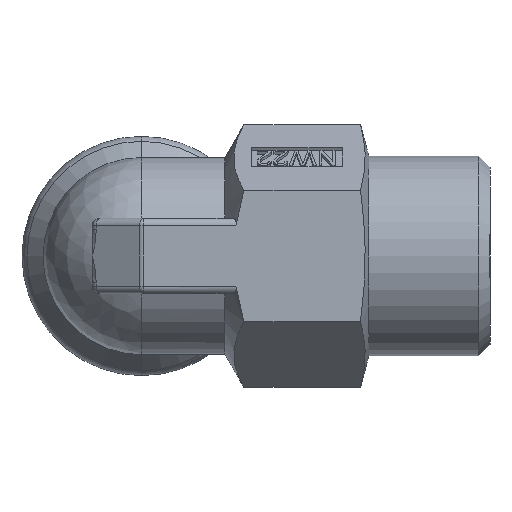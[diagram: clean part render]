
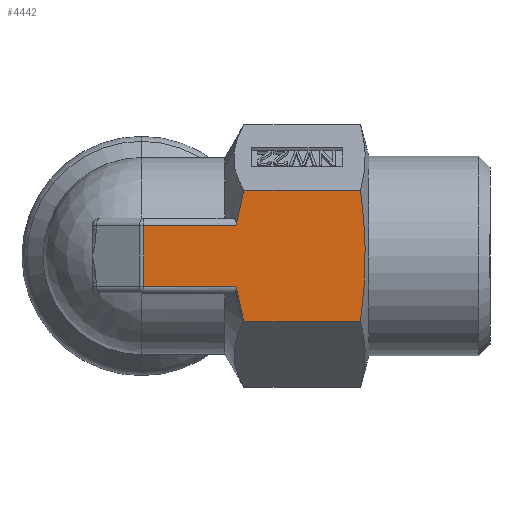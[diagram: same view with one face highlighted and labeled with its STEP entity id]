
A CAD part, left-side view. The second image highlights one B-rep face of the part: STEP entity #4442.
In plain terms, the highlighted planar face has unit normal (-1, 0, 0).
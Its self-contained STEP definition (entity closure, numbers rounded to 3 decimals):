
#67 = DIRECTION ( 'NONE',  ( 0., -1., 0. ) ) ;
#101 = CARTESIAN_POINT ( 'NONE',  ( -15., -30., 8.66 ) ) ;
#211 = CARTESIAN_POINT ( 'NONE',  ( -15., -12.457, 4. ) ) ;
#257 = DIRECTION ( 'NONE',  ( 0., 0., -1. ) ) ;
#367 = EDGE_CURVE ( 'NONE', #2882, #2411, #4184, .T. ) ;
#432 = EDGE_CURVE ( 'NONE', #649, #3298, #1314, .T. ) ;
#492 = EDGE_LOOP ( 'NONE', ( #1370, #4715, #2795, #4676, #1510, #5433, #3528, #2963 ) ) ;
#536 = CARTESIAN_POINT ( 'NONE',  ( -15., -28.896, 8.66 ) ) ;
#547 = CARTESIAN_POINT ( 'NONE',  ( -15., -13.494, 8.66 ) ) ;
#568 = VERTEX_POINT ( 'NONE', #2174 ) ;
#649 = VERTEX_POINT ( 'NONE', #536 ) ;
#734 = B_SPLINE_CURVE_WITH_KNOTS ( 'NONE', 3,
 ( #4618, #1469, #1910, #547 ),
 .UNSPECIFIED., .F., .F.,
 ( 4, 4 ),
 ( 0.028, 0.033 ),
 .UNSPECIFIED. ) ;
#746 = VECTOR ( 'NONE', #5004, 1000. ) ;
#833 = VECTOR ( 'NONE', #4241, 1000. ) ;
#888 = VERTEX_POINT ( 'NONE', #211 ) ;
#933 = DIRECTION ( 'NONE',  ( 0., 0., -1. ) ) ;
#968 = B_SPLINE_CURVE_WITH_KNOTS ( 'NONE', 3,
 ( #2240, #4973, #1342, #2259, #5830, #1329 ),
 .UNSPECIFIED., .F., .F.,
 ( 4, 2, 4 ),
 ( 0.016, 0.018, 0.02 ),
 .UNSPECIFIED. ) ;
#1096 = AXIS2_PLACEMENT_3D ( 'NONE', #101, #4558, #933 ) ;
#1221 = VERTEX_POINT ( 'NONE', #1847 ) ;
#1247 = CARTESIAN_POINT ( 'NONE',  ( -15., -29.517, 1.458 ) ) ;
#1314 = LINE ( 'NONE', #4160, #746 ) ;
#1329 = CARTESIAN_POINT ( 'NONE',  ( -15., -12.457, -4. ) ) ;
#1342 = CARTESIAN_POINT ( 'NONE',  ( -15., -13.073, -7.124 ) ) ;
#1370 = ORIENTED_EDGE ( 'NONE', *, *, #4401, .F. ) ;
#1469 = CARTESIAN_POINT ( 'NONE',  ( -15., -12.693, 5.583 ) ) ;
#1510 = ORIENTED_EDGE ( 'NONE', *, *, #1686, .F. ) ;
#1559 = EDGE_CURVE ( 'NONE', #888, #568, #4697, .T. ) ;
#1680 = CARTESIAN_POINT ( 'NONE',  ( -15., -28.896, -8.66 ) ) ;
#1686 = EDGE_CURVE ( 'NONE', #2411, #1221, #968, .T. ) ;
#1847 = CARTESIAN_POINT ( 'NONE',  ( -15., -12.457, -4. ) ) ;
#1910 = CARTESIAN_POINT ( 'NONE',  ( -15., -13.053, 7.132 ) ) ;
#1977 = CARTESIAN_POINT ( 'NONE',  ( -15., -13.494, 8.66 ) ) ;
#1996 = EDGE_CURVE ( 'NONE', #649, #2882, #5348, .T. ) ;
#2034 = CARTESIAN_POINT ( 'NONE',  ( -15., -29.089, 7.222 ) ) ;
#2052 = CARTESIAN_POINT ( 'NONE',  ( -15., -30., -8.66 ) ) ;
#2166 = CARTESIAN_POINT ( 'NONE',  ( -15., -29.089, -7.219 ) ) ;
#2174 = CARTESIAN_POINT ( 'NONE',  ( -15., -0.249, 4. ) ) ;
#2240 = CARTESIAN_POINT ( 'NONE',  ( -15., -13.494, -8.66 ) ) ;
#2259 = CARTESIAN_POINT ( 'NONE',  ( -15., -12.722, -5.565 ) ) ;
#2411 = VERTEX_POINT ( 'NONE', #3445 ) ;
#2595 = CARTESIAN_POINT ( 'NONE',  ( -15., -29.247, -5.768 ) ) ;
#2795 = ORIENTED_EDGE ( 'NONE', *, *, #5055, .T. ) ;
#2805 = CARTESIAN_POINT ( 'NONE',  ( -15., -28.896, -8.66 ) ) ;
#2841 = CARTESIAN_POINT ( 'NONE',  ( -15., -0.249, -5. ) ) ;
#2882 = VERTEX_POINT ( 'NONE', #2805 ) ;
#2905 = VECTOR ( 'NONE', #257, 1000. ) ;
#2963 = ORIENTED_EDGE ( 'NONE', *, *, #432, .T. ) ;
#3040 = VERTEX_POINT ( 'NONE', #4314 ) ;
#3298 = VERTEX_POINT ( 'NONE', #1977 ) ;
#3445 = CARTESIAN_POINT ( 'NONE',  ( -15., -13.494, -8.66 ) ) ;
#3518 = CARTESIAN_POINT ( 'NONE',  ( -15., -29.245, 5.782 ) ) ;
#3528 = ORIENTED_EDGE ( 'NONE', *, *, #1996, .F. ) ;
#3538 = CARTESIAN_POINT ( 'NONE',  ( -15., -29.518, -1.43 ) ) ;
#3619 = EDGE_CURVE ( 'NONE', #3040, #1221, #4909, .T. ) ;
#4051 = VECTOR ( 'NONE', #4335, 1000. ) ;
#4160 = CARTESIAN_POINT ( 'NONE',  ( -15., -30., 8.66 ) ) ;
#4184 = LINE ( 'NONE', #2052, #4051 ) ;
#4204 = CARTESIAN_POINT ( 'NONE',  ( -15., 0.019, 4. ) ) ;
#4241 = DIRECTION ( 'NONE',  ( 0., 1., 0. ) ) ;
#4257 = LINE ( 'NONE', #2841, #2905 ) ;
#4314 = CARTESIAN_POINT ( 'NONE',  ( -15., -0.249, -4. ) ) ;
#4335 = DIRECTION ( 'NONE',  ( 0., 1., 0. ) ) ;
#4401 = EDGE_CURVE ( 'NONE', #888, #3298, #734, .T. ) ;
#4426 = CARTESIAN_POINT ( 'NONE',  ( -15., -30., -4. ) ) ;
#4442 = ADVANCED_FACE ( 'NONE', ( #4546 ), #5434, .F. ) ;
#4546 = FACE_OUTER_BOUND ( 'NONE', #492, .T. ) ;
#4558 = DIRECTION ( 'NONE',  ( 1., 0., 0. ) ) ;
#4618 = CARTESIAN_POINT ( 'NONE',  ( -15., -12.457, 4. ) ) ;
#4676 = ORIENTED_EDGE ( 'NONE', *, *, #3619, .T. ) ;
#4697 = LINE ( 'NONE', #4204, #833 ) ;
#4715 = ORIENTED_EDGE ( 'NONE', *, *, #1559, .T. ) ;
#4881 = CARTESIAN_POINT ( 'NONE',  ( -15., -29.462, -2.875 ) ) ;
#4909 = LINE ( 'NONE', #4426, #5184 ) ;
#4973 = CARTESIAN_POINT ( 'NONE',  ( -15., -13.274, -7.897 ) ) ;
#5004 = DIRECTION ( 'NONE',  ( 0., 1., 0. ) ) ;
#5055 = EDGE_CURVE ( 'NONE', #568, #3040, #4257, .T. ) ;
#5184 = VECTOR ( 'NONE', #67, 1000. ) ;
#5333 = CARTESIAN_POINT ( 'NONE',  ( -15., -29.46, 2.9 ) ) ;
#5348 = B_SPLINE_CURVE_WITH_KNOTS ( 'NONE', 3,
 ( #5623, #2034, #3518, #5333, #1247, #3538, #4881, #2595, #2166, #1680 ),
 .UNSPECIFIED., .F., .F.,
 ( 4, 2, 2, 2, 4 ),
 ( 0.036, 0.041, 0.045, 0.049, 0.054 ),
 .UNSPECIFIED. ) ;
#5433 = ORIENTED_EDGE ( 'NONE', *, *, #367, .F. ) ;
#5434 = PLANE ( 'NONE',  #1096 ) ;
#5623 = CARTESIAN_POINT ( 'NONE',  ( -15., -28.896, 8.66 ) ) ;
#5830 = CARTESIAN_POINT ( 'NONE',  ( -15., -12.574, -4.784 ) ) ;
